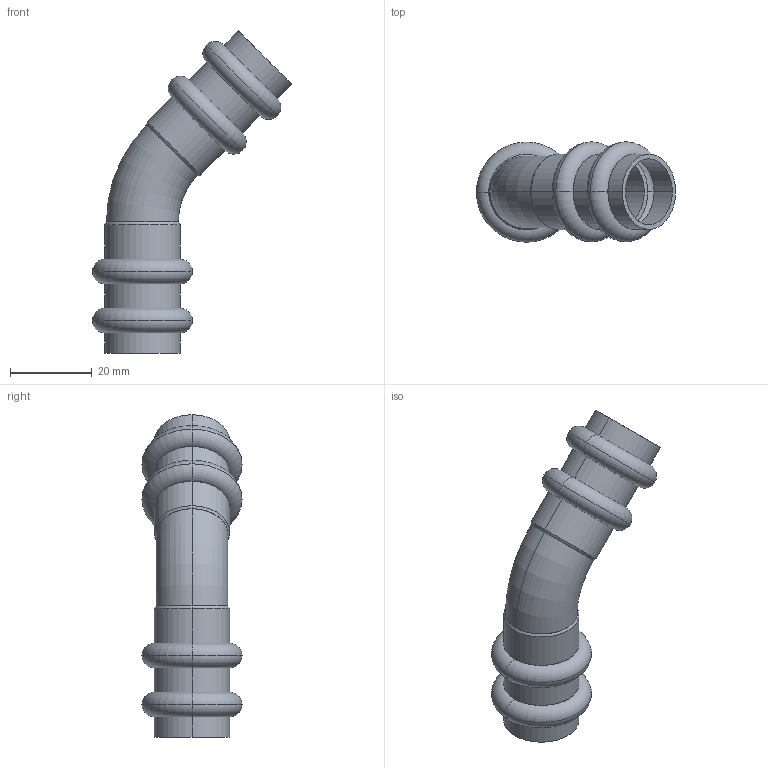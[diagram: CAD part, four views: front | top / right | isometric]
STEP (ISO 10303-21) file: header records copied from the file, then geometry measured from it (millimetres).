
FILE_DESCRIPTION(('starvars output'),'1');
FILE_NAME('cv20240422105106000011897.stp','10:51:06 2024/04/22',('Thomas Industrial Network Germany GmbH'),(' '),'Spatial InterOp 3D',' ',' ');
FILE_SCHEMA(('AUTOMOTIVE_DESIGN { 1 0 10303 214 3 1 1 }'));
Length unit declared in the file: millimetre
Products named in the file (1): 1
Bounding box: 48.77 x 24.5 x 78.94 mm (x, y, z)
Volume: 7943 mm3; surface area: 11022.2 mm2
Topology: 1 solids, 1 shells, 74 faces, 148 edges, 92 vertices
Faces by surface type: torus 28, cylinder 20, plane 18, cone 8
Entity records: 2856 total; most frequent: CARTESIAN_POINT 591, DIRECTION 410, ORIENTED_EDGE 296, AXIS2_PLACEMENT_3D 191, EDGE_CURVE 148, CIRCLE 116, EDGE_LOOP 92, VERTEX_POINT 92
